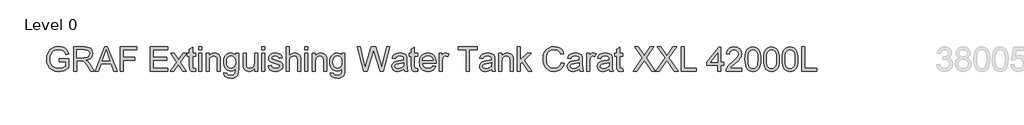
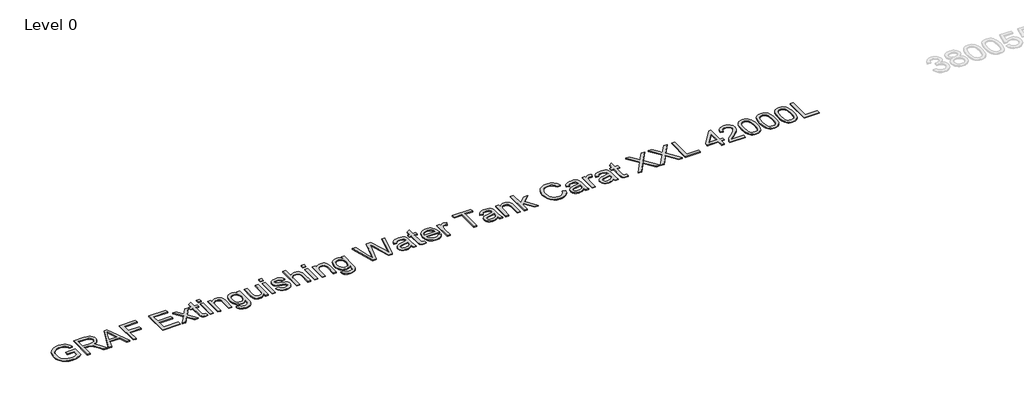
# One storey, part 9 of 37: 1 proxy.
"""IFC4 building model written with IfcOpenShell, lengths in millimetres."""

from ifc_helpers import new_model, si_unit, origin, origin_with_axes, place, context, project, spatial, polyline, outline, extrude, element, save

model = new_model("IFC4")

# Units and contexts
model_context = context("Model", 3, world=origin())
ifc_project = project(units=[si_unit("LENGTHUNIT", "METRE", prefix="MILLI")], contexts=[model_context])

# Site, building, storey
site = spatial("IfcSite", under=ifc_project)
building = spatial("IfcBuilding", under=site)
storey = spatial("IfcBuildingStorey", under=building, Name="Level 0", Elevation=0.0)

# Proxy
placement = place(None, origin())
element("IfcBuildingElementProxy", 1, Name="300mm Arial", ObjectType="300mm Arial", at=placement, inside=storey, context=model_context, shape_type="SweptSolid", body=[
    extrude(outline(polyline([(-17240.9940387, -21583.2545597), (-17240.9940387, -21545.5834434), (-17118.5629107, -21545.5834434), (-17118.5629107, -21658.2289103), (-17148.3153671, -21678.9222726), (-17179.0059225, -21693.7663111), (-17210.5610007, -21702.7058436), (-17242.9070251, -21705.6856877), (-17285.1674693, -21700.949207), (-17323.3628175, -21686.739765), (-17355.0926395, -21663.5540022), (-17377.9565055, -21631.8885595), (-17391.7796715, -21593.9047435), (-17396.3873935, -21551.7638609), (-17391.7980656, -21509.3194757), (-17378.0300819, -21469.8365406), (-17355.6536596, -21436.717964), (-17325.2390156, -21413.3666543), (-17288.1932987, -21399.5158972), (-17245.9236575, -21394.8989782), (-17214.8928112, -21397.5753197), (-17186.9889618, -21405.6043443), (-17163.4904994, -21418.4066377), (-17145.6758138, -21435.4027859), (-17132.4964413, -21457.4113262), (-17122.9039183, -21485.2507962), (-17157.6319786, -21495.0364573), (-17165.3850917, -21475.1800266), (-17174.8120678, -21460.1980323), (-17187.2832674, -21448.9040551), (-17204.169051, -21440.1116754), (-17224.3013932, -21434.4554897), (-17246.5122687, -21432.5700945), (-17272.5123287, -21434.6026425), (-17294.7415982, -21440.7002866), (-17313.1173039, -21450.0996716), (-17327.5566722, -21462.0374423), (-17346.9440533, -21491.0633317), (-17355.7732212, -21519.50061), (-17358.7162772, -21550.2187566), (-17355.175413, -21586.2436009), (-17344.5528204, -21615.8856927), (-17327.1703961, -21638.9334997), (-17303.3500369, -21655.1754898), (-17275.4737787, -21664.804801), (-17245.9236575, -21668.0145714), (-17219.831627, -21665.5957473), (-17194.3833899, -21658.3392749), (-17172.2828791, -21648.3420817), (-17156.234027, -21637.701095), (-17156.234027, -21583.2545597), (-17240.9940387, -21583.2545597)])), origin_with_axes(), (0.0, 0.0, 1.0), 10.0),
    extrude(outline(polyline([(-17057.3473467, -21700.9767982), (-17057.3473467, -21399.6078677), (-16927.4850024, -21399.6078677), (-16892.5821982, -21401.6404158), (-16867.1891434, -21407.7380598), (-16848.6294968, -21418.9952489), (-16834.2269167, -21436.5064318), (-16824.9838815, -21458.2206666), (-16821.9028698, -21482.087011), (-16827.0072325, -21511.7750881), (-16842.3203206, -21536.3863935), (-16853.9200997, -21546.4157764), (-16868.3019865, -21554.4310054), (-16905.4120827, -21564.4190016), (-16884.0013506, -21580.532233), (-16853.467145, -21619.3069952), (-16803.2144645, -21700.9767982), (-16846.9924219, -21700.9767982), (-16886.2086426, -21638.5104354), (-16914.5355562, -21597.1604991), (-16934.4379722, -21577.6259652), (-16952.3538253, -21570.4522663), (-16974.2060158, -21569.1278911), (-17019.6762304, -21569.1278911), (-17019.6762304, -21700.9767982), (-17057.3473467, -21700.9767982)]), holes=[polyline([(-17019.6762304, -21531.4567748), (-16935.3576771, -21531.4567748), (-16911.1418448, -21530.1232026), (-16892.3522719, -21526.1224859), (-16878.2072092, -21519.1879103), (-16867.9249074, -21509.0527613), (-16861.6617165, -21496.7930938), (-16859.5739861, -21483.4849626), (-16863.5563087, -21465.109257), (-16875.5032765, -21450.3020067), (-16896.058683, -21440.5347397), (-16925.8663217, -21437.278984), (-17019.6762304, -21437.278984), (-17019.6762304, -21531.4567748)])]), origin_with_axes(), (0.0, 0.0, 1.0), 10.0),
    extrude(outline(polyline([(-16791.0743586, -21700.9767982), (-16670.7769462, -21399.6078677), (-16638.6976362, -21399.6078677), (-16518.4002238, -21700.9767982), (-16558.2050557, -21700.9767982), (-16592.7123868, -21606.7990074), (-16716.835772, -21606.7990074), (-16751.2695268, -21700.9767982), (-16791.0743586, -21700.9767982)]), holes=[polyline([(-16703.003409, -21569.1278911), (-16606.4711735, -21569.1278911), (-16633.6208647, -21495.0364573), (-16654.7372912, -21437.278984), (-16673.499273, -21488.5617342), (-16703.003409, -21569.1278911)])]), origin_with_axes(), (0.0, 0.0, 1.0), 10.0),
    extrude(outline(polyline([(-16478.1539335, -21700.9767982), (-16478.1539335, -21399.6078677), (-16275.6716834, -21399.6078677), (-16275.6716834, -21437.278984), (-16440.4828172, -21437.278984), (-16440.4828172, -21526.7478853), (-16299.2161311, -21526.7478853), (-16299.2161311, -21564.4190016), (-16440.4828172, -21564.4190016), (-16440.4828172, -21700.9767982), (-16478.1539335, -21700.9767982)])), origin_with_axes(), (0.0, 0.0, 1.0), 10.0),
    extrude(outline(polyline([(-16106.15166, -21700.9767982), (-16106.15166, -21399.6078677), (-15889.5427413, -21399.6078677), (-15889.5427413, -21437.278984), (-16068.4805437, -21437.278984), (-16068.4805437, -21526.7478853), (-15898.9605203, -21526.7478853), (-15898.9605203, -21564.4190016), (-16068.4805437, -21564.4190016), (-16068.4805437, -21663.3056819), (-15884.8338517, -21663.3056819), (-15884.8338517, -21700.9767982), (-16106.15166, -21700.9767982)])), origin_with_axes(), (0.0, 0.0, 1.0), 10.0),
    extrude(outline(polyline([(-15856.5805145, -21700.9767982), (-15776.0879339, -21589.7292828), (-15851.8716249, -21479.6589899), (-15806.5485631, -21479.6589899), (-15769.9810928, -21532.6339972), (-15752.9113682, -21557.6499729), (-15738.122512, -21537.1957339), (-15696.4782702, -21479.6589899), (-15651.1552084, -21479.6589899), (-15730.7648721, -21589.7292828), (-15654.0982643, -21700.9767982), (-15699.4213261, -21700.9767982), (-15745.5537283, -21634.0958515), (-15754.0150142, -21621.8821692), (-15811.2574527, -21700.9767982), (-15856.5805145, -21700.9767982)])), origin_with_axes(), (0.0, 0.0, 1.0), 10.0),
    extrude(outline(polyline([(-15541.0849154, -21669.5596758), (-15536.3760259, -21702.0804442), (-15564.5557867, -21705.6856877), (-15582.6371868, -21704.1221892), (-15596.1200619, -21699.4316938), (-15605.6482056, -21692.2028126), (-15611.8654113, -21683.0241568), (-15615.2867139, -21667.2604133), (-15616.427148, -21640.276269), (-15616.427148, -21517.3301062), (-15644.6804853, -21517.3301062), (-15644.6804853, -21479.6589899), (-15616.427148, -21479.6589899), (-15616.427148, -21425.8746422), (-15578.7560317, -21403.7281461), (-15578.7560317, -21479.6589899), (-15541.0849154, -21479.6589899), (-15541.0849154, -21517.3301062), (-15578.7560317, -21517.3301062), (-15578.7560317, -21639.172623), (-15576.769469, -21658.5967923), (-15570.331534, -21665.4761856), (-15557.4924524, -21668.0145714), (-15541.0849154, -21669.5596758)])), origin_with_axes(), (0.0, 0.0, 1.0), 10.0),
    extrude(outline(polyline([(-15503.4137991, -21437.278984), (-15503.4137991, -21399.6078677), (-15465.7426828, -21399.6078677), (-15465.7426828, -21437.278984), (-15503.4137991, -21437.278984)])), origin_with_axes(), (0.0, 0.0, 1.0), 10.0),
    extrude(outline(polyline([(-15503.4137991, -21700.9767982), (-15503.4137991, -21479.6589899), (-15465.7426828, -21479.6589899), (-15465.7426828, -21700.9767982), (-15503.4137991, -21700.9767982)])), origin_with_axes(), (0.0, 0.0, 1.0), 10.0),
    extrude(outline(polyline([(-15409.2360084, -21700.9767982), (-15409.2360084, -21479.6589899), (-15371.564892, -21479.6589899), (-15371.564892, -21510.5610775), (-15358.4774901, -21494.981275), (-15342.7597318, -21483.8528446), (-15324.4116173, -21477.1757864), (-15303.4331465, -21474.9501003), (-15284.8643028, -21476.7435251), (-15267.8589576, -21482.1237992), (-15253.6771067, -21490.4195382), (-15243.5787459, -21500.9593574), (-15232.2847687, -21528.6608716), (-15230.2982059, -21565.0811892), (-15230.2982059, -21700.9767982), (-15267.9693222, -21700.9767982), (-15267.9693222, -21570.1579607), (-15272.3103297, -21536.8278519), (-15278.3160033, -21526.9042351), (-15287.6510089, -21519.2063044), (-15299.6163708, -21514.2674886), (-15313.5131132, -21512.6212166), (-15335.5768359, -21516.3184307), (-15354.3848029, -21527.4100729), (-15361.9010919, -21536.4645685), (-15367.2698698, -21548.8391991), (-15371.564892, -21583.5488653), (-15371.564892, -21700.9767982), (-15409.2360084, -21700.9767982)])), origin_with_axes(), (0.0, 0.0, 1.0), 10.0),
    extrude(outline(polyline([(-15187.9182001, -21719.8123563), (-15150.2470837, -21724.5212459), (-15146.0900172, -21736.2934697), (-15138.0334015, -21744.3868736), (-15122.1960816, -21750.6776557), (-15101.4659312, -21752.7745831), (-15079.3562233, -21750.4017442), (-15062.9118981, -21743.2832276), (-15051.5075562, -21731.8788858), (-15044.5177983, -21716.6485712), (-15041.9426244, -21672.7234609), (-15054.4782034, -21685.084296), (-15068.4669162, -21693.9134639), (-15083.908763, -21699.2109646), (-15100.8037436, -21700.9767982), (-15121.4580184, -21698.9212575), (-15139.6428852, -21692.7546356), (-15155.3583442, -21682.4769323), (-15168.6043953, -21668.0881478), (-15179.1143241, -21650.8252852), (-15186.621416, -21631.9253477), (-15191.1256712, -21611.3883353), (-15192.6270896, -21589.214248), (-15189.932354, -21558.7996041), (-15181.8481471, -21530.8313754), (-15168.6595776, -21507.1305779), (-15150.6517539, -21489.5182274), (-15128.4408785, -21478.5921321), (-15102.6431536, -21474.9501003), (-15085.0262045, -21477.0102395), (-15069.0371333, -21483.190657), (-15054.6759399, -21493.4913529), (-15041.9426244, -21507.9123271), (-15041.9426244, -21479.6589899), (-15004.2715081, -21479.6589899), (-15004.2715081, -21670.7368982), (-15006.846682, -21714.8551464), (-15014.5722039, -21743.908627), (-15027.8803351, -21763.1764465), (-15047.2033369, -21777.9377116), (-15072.118145, -21787.3187024), (-15102.2016952, -21790.4456994), (-15137.2516523, -21786.0403125), (-15164.851999, -21772.8241518), (-15175.2469646, -21762.9028343), (-15182.55632, -21750.7604292), (-15186.7800651, -21736.3969365), (-15187.9182001, -21719.8123563)]), holes=[polyline([(-15154.9559733, -21586.6390741), (-15150.9368625, -21621.1923905), (-15138.8795301, -21644.9483703), (-15120.7521448, -21658.716354), (-15098.5228752, -21663.3056819), (-15076.4591526, -21658.7439451), (-15058.2397968, -21645.0587349), (-15046.0169175, -21621.6062577), (-15041.9426244, -21587.7427201), (-15046.1364791, -21555.0839959), (-15058.7180433, -21531.5671394), (-15077.2041136, -21517.3576973), (-15099.1114864, -21512.6212166), (-15120.6233861, -21517.2841209), (-15138.6588009, -21531.2728338), (-15150.8816802, -21554.4402024), (-15154.9559733, -21586.6390741)])]), origin_with_axes(), (0.0, 0.0, 1.0), 10.0),
    extrude(outline(polyline([(-14806.4981475, -21700.9767982), (-14806.4981475, -21662.9377999), (-14820.1281754, -21681.6400008), (-14836.0022835, -21694.9987158), (-14854.1204717, -21703.0139447), (-14874.4827402, -21705.6856877), (-14892.8308547, -21703.8094895), (-14909.9097763, -21698.180895), (-14924.23878, -21689.7196091), (-14934.3371408, -21679.3453369), (-14945.5575416, -21651.6070344), (-14947.7648336, -21616.5846685), (-14947.7648336, -21479.6589899), (-14910.0937173, -21479.6589899), (-14910.0937173, -21598.8527563), (-14907.8128489, -21637.2596366), (-14902.3222101, -21650.0711271), (-14892.9136281, -21659.8108029), (-14880.2125022, -21665.9636293), (-14864.8442319, -21668.0145714), (-14848.5930448, -21665.917644), (-14833.3903213, -21659.6268619), (-14820.8547423, -21649.7216392), (-14812.6049886, -21636.78139), (-14808.0248577, -21619.0586749), (-14806.4981475, -21594.8060544), (-14806.4981475, -21479.6589899), (-14768.8270311, -21479.6589899), (-14768.8270311, -21700.9767982), (-14806.4981475, -21700.9767982)])), origin_with_axes(), (0.0, 0.0, 1.0), 10.0),
    extrude(outline(polyline([(-14717.0292462, -21437.278984), (-14717.0292462, -21399.6078677), (-14679.3581299, -21399.6078677), (-14679.3581299, -21437.278984), (-14717.0292462, -21437.278984)])), origin_with_axes(), (0.0, 0.0, 1.0), 10.0),
    extrude(outline(polyline([(-14717.0292462, -21700.9767982), (-14717.0292462, -21479.6589899), (-14679.3581299, -21479.6589899), (-14679.3581299, -21700.9767982), (-14717.0292462, -21700.9767982)])), origin_with_axes(), (0.0, 0.0, 1.0), 10.0),
    extrude(outline(polyline([(-14636.9781241, -21635.0523446), (-14599.3070078, -21630.3434551), (-14593.3657135, -21646.4566865), (-14581.8694012, -21658.3024867), (-14564.7444943, -21665.5865502), (-14541.9174165, -21668.0145714), (-14519.3662502, -21665.7888853), (-14503.5105362, -21659.1118271), (-14494.1295453, -21649.4365307), (-14491.0025484, -21638.2161298), (-14494.1479394, -21628.6144097), (-14503.5841126, -21621.293558), (-14542.3588749, -21610.5514038), (-14599.0862786, -21592.1205158), (-14613.4428734, -21582.8590866), (-14623.8447368, -21570.5994191), (-14630.1631101, -21556.1232626), (-14632.2692345, -21540.2123663), (-14630.5769774, -21525.6166481), (-14625.5002058, -21512.1429701), (-14617.4987724, -21500.324761), (-14607.0325297, -21490.6954497), (-14583.0834118, -21479.5486253), (-14550.673008, -21474.9501003), (-14526.153673, -21476.7987074), (-14504.8349114, -21482.3445284), (-14487.6916104, -21491.0449376), (-14475.6986574, -21502.357309), (-14467.7524063, -21517.118574), (-14462.7492112, -21536.1656643), (-14500.4203275, -21540.8745539), (-14505.1752023, -21529.0195566), (-14514.5837843, -21520.0892211), (-14528.738044, -21514.4882178), (-14547.729952, -21512.6212166), (-14569.3614134, -21514.4054443), (-14583.7823876, -21519.7581274), (-14591.8941856, -21527.4836493), (-14594.5981182, -21536.3863935), (-14590.1099579, -21547.349277), (-14576.0568657, -21555.6634101), (-14543.6096737, -21563.6832376), (-14488.3170098, -21581.4151497), (-14473.7120946, -21589.8948297), (-14462.6388466, -21601.5015067), (-14455.6582857, -21616.2719688), (-14453.3314321, -21634.2430043), (-14456.0629559, -21652.821045), (-14464.2575273, -21670.2954398), (-14477.6024467, -21685.2958281), (-14495.7850143, -21696.4518496), (-14517.7475694, -21703.3772282), (-14542.4324513, -21705.6856877), (-14580.4162673, -21701.2343156), (-14608.1361757, -21687.8801991), (-14626.64064, -21665.7704912), (-14636.9781241, -21635.0523446)])), origin_with_axes(), (0.0, 0.0, 1.0), 10.0),
    extrude(outline(polyline([(-14410.9514262, -21700.9767982), (-14410.9514262, -21399.6078677), (-14373.2803099, -21399.6078677), (-14373.2803099, -21510.4139247), (-14359.4433484, -21494.8985015), (-14343.9049326, -21483.8160564), (-14326.6650626, -21477.1665894), (-14307.7237384, -21474.9501003), (-14284.970237, -21477.3689245), (-14265.4173089, -21484.6253968), (-14250.0214474, -21496.1493003), (-14239.7391457, -21511.3704179), (-14233.9450043, -21532.2845093), (-14232.0136238, -21560.8873344), (-14232.0136238, -21700.9767982), (-14269.6847401, -21700.9767982), (-14269.6847401, -21564.7868836), (-14272.6829784, -21541.2056477), (-14281.6776931, -21525.0556281), (-14296.1722437, -21515.7298195), (-14315.6699895, -21512.6212166), (-14331.5900828, -21514.718144), (-14346.5352889, -21521.0089261), (-14358.914518, -21530.8865577), (-14367.1366806, -21543.7440334), (-14371.7444026, -21560.8321521), (-14373.2803099, -21583.4017125), (-14373.2803099, -21700.9767982), (-14410.9514262, -21700.9767982)])), origin_with_axes(), (0.0, 0.0, 1.0), 10.0),
    extrude(outline(polyline([(-14180.2158389, -21437.278984), (-14180.2158389, -21399.6078677), (-14142.5447226, -21399.6078677), (-14142.5447226, -21437.278984), (-14180.2158389, -21437.278984)])), origin_with_axes(), (0.0, 0.0, 1.0), 10.0),
    extrude(outline(polyline([(-14180.2158389, -21700.9767982), (-14180.2158389, -21479.6589899), (-14142.5447226, -21479.6589899), (-14142.5447226, -21700.9767982), (-14180.2158389, -21700.9767982)])), origin_with_axes(), (0.0, 0.0, 1.0), 10.0),
    extrude(outline(polyline([(-14086.0380481, -21700.9767982), (-14086.0380481, -21479.6589899), (-14048.3669318, -21479.6589899), (-14048.3669318, -21510.5610775), (-14035.2795298, -21494.981275), (-14019.5617716, -21483.8528446), (-14001.2136571, -21477.1757864), (-13980.2351863, -21474.9501003), (-13961.6663426, -21476.7435251), (-13944.6609974, -21482.1237992), (-13930.4791464, -21490.4195382), (-13920.3807857, -21500.9593574), (-13909.0868084, -21528.6608716), (-13907.1002456, -21565.0811892), (-13907.1002456, -21700.9767982), (-13944.771362, -21700.9767982), (-13944.771362, -21570.1579607), (-13949.1123695, -21536.8278519), (-13955.1180431, -21526.9042351), (-13964.4530487, -21519.2063044), (-13976.4184106, -21514.2674886), (-13990.315153, -21512.6212166), (-14012.3788756, -21516.3184307), (-14031.1868426, -21527.4100729), (-14038.7031316, -21536.4645685), (-14044.0719095, -21548.8391991), (-14048.3669318, -21583.5488653), (-14048.3669318, -21700.9767982), (-14086.0380481, -21700.9767982)])), origin_with_axes(), (0.0, 0.0, 1.0), 10.0),
    extrude(outline(polyline([(-13864.7202398, -21719.8123563), (-13827.0491235, -21724.5212459), (-13822.8920569, -21736.2934697), (-13814.8354413, -21744.3868736), (-13798.9981214, -21750.6776557), (-13778.2679709, -21752.7745831), (-13756.158263, -21750.4017442), (-13739.7139378, -21743.2832276), (-13728.309596, -21731.8788858), (-13721.3198381, -21716.6485712), (-13718.7446641, -21672.7234609), (-13731.2802431, -21685.084296), (-13745.268956, -21693.9134639), (-13760.7108027, -21699.2109646), (-13777.6057833, -21700.9767982), (-13798.2600581, -21698.9212575), (-13816.444925, -21692.7546356), (-13832.160384, -21682.4769323), (-13845.4064351, -21668.0881478), (-13855.9163638, -21650.8252852), (-13863.4234558, -21631.9253477), (-13867.9277109, -21611.3883353), (-13869.4291293, -21589.214248), (-13866.7343937, -21558.7996041), (-13858.6501869, -21530.8313754), (-13845.4616174, -21507.1305779), (-13827.4537937, -21489.5182274), (-13805.2429182, -21478.5921321), (-13779.4451933, -21474.9501003), (-13761.8282443, -21477.0102395), (-13745.8391731, -21483.190657), (-13731.4779797, -21493.4913529), (-13718.7446641, -21507.9123271), (-13718.7446641, -21479.6589899), (-13681.0735478, -21479.6589899), (-13681.0735478, -21670.7368982), (-13683.6487218, -21714.8551464), (-13691.3742437, -21743.908627), (-13704.6823748, -21763.1764465), (-13724.0053766, -21777.9377116), (-13748.9201848, -21787.3187024), (-13779.0037349, -21790.4456994), (-13814.053692, -21786.0403125), (-13841.6540387, -21772.8241518), (-13852.0490043, -21762.9028343), (-13859.3583597, -21750.7604292), (-13863.5821049, -21736.3969365), (-13864.7202398, -21719.8123563)]), holes=[polyline([(-13831.758013, -21586.6390741), (-13827.7389022, -21621.1923905), (-13815.6815698, -21644.9483703), (-13797.5541845, -21658.716354), (-13775.324915, -21663.3056819), (-13753.2611923, -21658.7439451), (-13735.0418365, -21645.0587349), (-13722.8189572, -21621.6062577), (-13718.7446641, -21587.7427201), (-13722.9385189, -21555.0839959), (-13735.5200831, -21531.5671394), (-13754.0061534, -21517.3576973), (-13775.9135262, -21512.6212166), (-13797.4254258, -21517.2841209), (-13815.4608406, -21531.2728338), (-13827.6837199, -21554.4402024), (-13831.758013, -21586.6390741)])]), origin_with_axes(), (0.0, 0.0, 1.0), 10.0),
    extrude(outline(polyline([(-13448.2042449, -21700.9767982), (-13530.3890826, -21399.6078677), (-13491.5407439, -21399.6078677), (-13443.8632373, -21597.6755339), (-13429.1479575, -21658.8175215), (-13413.4026081, -21604.7388682), (-13353.6585721, -21399.6078677), (-13297.6669324, -21399.6078677), (-13254.256857, -21548.3057702), (-13235.6604221, -21603.4880695), (-13221.9568178, -21658.8175215), (-13207.6829964, -21599.4413675), (-13159.5640314, -21399.6078677), (-13120.7156928, -21399.6078677), (-13202.9741069, -21700.9767982), (-13243.2203971, -21700.9767982), (-13315.472421, -21468.4753772), (-13325.5523877, -21436.0281853), (-13336.8831531, -21475.0972531), (-13402.7340303, -21700.9767982), (-13448.2042449, -21700.9767982)])), origin_with_axes(), (0.0, 0.0, 1.0), 10.0),
    extrude(outline(polyline([(-12946.4867798, -21672.7234609), (-12964.4854065, -21688.1561106), (-12983.017462, -21698.2544714), (-13002.5060107, -21703.8278836), (-13023.3741168, -21705.6856877), (-13054.8556186, -21701.2159215), (-13078.0781695, -21687.8066228), (-13092.3979762, -21667.4443543), (-13097.1712451, -21642.1156789), (-13095.3686233, -21626.4990883), (-13089.960758, -21612.3172373), (-13081.6190337, -21600.1771315), (-13071.0148352, -21590.685776), (-13044.6376962, -21578.324941), (-13012.0433514, -21572.6595583), (-12973.5261065, -21566.6998699), (-12946.707509, -21559.710112), (-12946.4867798, -21551.3224025), (-12949.0803479, -21534.5101954), (-12956.8610521, -21523.5105237), (-12974.2618705, -21515.3435434), (-12998.505294, -21512.6212166), (-13020.9460957, -21514.4330355), (-13036.6178687, -21519.868492), (-13047.3048406, -21529.9208675), (-13054.7912392, -21545.5834434), (-13092.4623555, -21540.8745539), (-13085.9232531, -21520.2731621), (-13076.1651831, -21504.0863544), (-13062.2776378, -21491.7071252), (-13043.3501092, -21482.5284694), (-13020.2011346, -21476.8446926), (-12993.6492516, -21474.9501003), (-12968.1826205, -21476.6239634), (-12947.995096, -21481.6455527), (-12932.7739785, -21489.1963306), (-12922.2065682, -21498.4577598), (-12915.1984162, -21509.9080869), (-12910.6550735, -21524.0255585), (-12908.8156635, -21556.9877853), (-12908.8156635, -21603.8559515), (-12906.9026772, -21669.3021584), (-12899.3978845, -21700.9767982), (-12937.0690008, -21700.9767982), (-12946.4867798, -21672.7234609)]), holes=[polyline([(-12946.4867798, -21597.3812283), (-13007.2608854, -21608.932723), (-13039.6712892, -21615.0395641), (-13054.3497808, -21624.972378), (-13059.5001288, -21639.4669286), (-13056.6950285, -21650.6689353), (-13048.2797279, -21659.8475911), (-13034.4381678, -21665.9728263), (-13015.3542893, -21668.0145714), (-12995.1207796, -21665.7612942), (-12977.2417146, -21659.0014625), (-12962.747164, -21649.0410575), (-12952.6671974, -21637.1860602), (-12948.1974311, -21624.972378), (-12946.707509, -21608.0498062), (-12946.4867798, -21597.3812283)])]), origin_with_axes(), (0.0, 0.0, 1.0), 10.0),
    extrude(outline(polyline([(-12776.9667565, -21669.5596758), (-12772.2578669, -21702.0804442), (-12800.4376278, -21705.6856877), (-12818.5190278, -21704.1221892), (-12832.0019029, -21699.4316938), (-12841.5300466, -21692.2028126), (-12847.7472523, -21683.0241568), (-12851.1685549, -21667.2604133), (-12852.3089891, -21640.276269), (-12852.3089891, -21517.3301062), (-12880.5623263, -21517.3301062), (-12880.5623263, -21479.6589899), (-12852.3089891, -21479.6589899), (-12852.3089891, -21425.8746422), (-12814.6378728, -21403.7281461), (-12814.6378728, -21479.6589899), (-12776.9667565, -21479.6589899), (-12776.9667565, -21517.3301062), (-12814.6378728, -21517.3301062), (-12814.6378728, -21639.172623), (-12812.65131, -21658.5967923), (-12806.2133751, -21665.4761856), (-12793.3742934, -21668.0145714), (-12776.9667565, -21669.5596758)])), origin_with_axes(), (0.0, 0.0, 1.0), 10.0),
    extrude(outline(polyline([(-12584.3437438, -21635.0523446), (-12547.4083915, -21639.7612342), (-12560.7165226, -21667.5915071), (-12581.9525108, -21688.3952339), (-12610.6381094, -21701.3630743), (-12646.2950718, -21705.6856877), (-12669.669374, -21703.8209859), (-12690.4960935, -21698.2268803), (-12708.7752301, -21688.9033709), (-12724.506784, -21675.8504579), (-12737.1573261, -21659.4314246), (-12746.1934276, -21640.0095545), (-12751.6150885, -21617.5848477), (-12753.4223088, -21592.157304), (-12751.5966944, -21565.8675369), (-12746.1198512, -21542.6955698), (-12736.9917792, -21522.6414025), (-12724.2124784, -21505.7050351), (-12708.5223113, -21492.2497512), (-12690.6616404, -21482.638834), (-12670.6304658, -21476.8722838), (-12648.4287873, -21474.9501003), (-12626.9421796, -21476.8676852), (-12607.5111124, -21482.6204399), (-12590.1355859, -21492.2083644), (-12574.8156001, -21505.6314587), (-12562.3099115, -21522.5310379), (-12553.3772768, -21542.548417), (-12548.017696, -21565.6835959), (-12546.2311691, -21591.9365748), (-12546.4518983, -21602.0901179), (-12715.7511925, -21602.0901179), (-12709.2304841, -21630.2882728), (-12694.0829429, -21651.0184232), (-12672.2215554, -21663.7655344), (-12645.5593078, -21668.0145714), (-12625.509739, -21666.0464027), (-12608.6239555, -21660.1418967), (-12594.901957, -21649.9331713), (-12584.3437438, -21635.0523446)]), holes=[polyline([(-12715.7511925, -21564.4190016), (-12583.9022854, -21564.4190016), (-12588.997451, -21544.5165856), (-12598.9854472, -21530.2795524), (-12620.9480023, -21517.0358006), (-12648.5759401, -21512.6212166), (-12673.9689949, -21516.1436868), (-12694.9658597, -21526.7110971), (-12709.5615779, -21543.1830134), (-12715.7511925, -21564.4190016)])]), origin_with_axes(), (0.0, 0.0, 1.0), 10.0),
    extrude(outline(polyline([(-12508.5600528, -21700.9767982), (-12508.5600528, -21479.6589899), (-12475.597826, -21479.6589899), (-12475.597826, -21512.4004875), (-12463.420932, -21493.4177765), (-12452.2005311, -21482.2341638), (-12440.9433421, -21476.7711162), (-12428.6560834, -21474.9501003), (-12409.8941017, -21477.8563681), (-12390.8378143, -21486.5751714), (-12403.4193786, -21520.3467385), (-12416.6631304, -21514.5525971), (-12429.9068822, -21512.6212166), (-12441.1548742, -21514.4790207), (-12451.2072497, -21520.052433), (-12459.3282448, -21528.918389), (-12464.7820954, -21540.6538247), (-12469.3622262, -21561.6966748), (-12470.8889365, -21584.6525113), (-12470.8889365, -21700.9767982), (-12508.5600528, -21700.9767982)])), origin_with_axes(), (0.0, 0.0, 1.0), 10.0),
    extrude(outline(polyline([(-12169.520006, -21700.9767982), (-12169.520006, -21437.278984), (-12268.4066863, -21437.278984), (-12268.4066863, -21399.6078677), (-12032.9622094, -21399.6078677), (-12032.9622094, -21437.278984), (-12131.8488897, -21437.278984), (-12131.8488897, -21700.9767982), (-12169.520006, -21700.9767982)])), origin_with_axes(), (0.0, 0.0, 1.0), 10.0),
    extrude(outline(polyline([(-11854.024407, -21672.7234609), (-11872.0230336, -21688.1561106), (-11890.5550891, -21698.2544714), (-11910.0436378, -21703.8278836), (-11930.911744, -21705.6856877), (-11962.3932457, -21701.2159215), (-11985.6157966, -21687.8066228), (-11999.9356033, -21667.4443543), (-12004.7088722, -21642.1156789), (-12002.9062504, -21626.4990883), (-11997.4983851, -21612.3172373), (-11989.1566608, -21600.1771315), (-11978.5524623, -21590.685776), (-11952.1753233, -21578.324941), (-11919.5809785, -21572.6595583), (-11881.0637336, -21566.6998699), (-11854.2451362, -21559.710112), (-11854.024407, -21551.3224025), (-11856.617975, -21534.5101954), (-11864.3986792, -21523.5105237), (-11881.7994976, -21515.3435434), (-11906.0429211, -21512.6212166), (-11928.4837228, -21514.4330355), (-11944.1554958, -21519.868492), (-11954.8424677, -21529.9208675), (-11962.3288663, -21545.5834434), (-11999.9999826, -21540.8745539), (-11993.4608802, -21520.2731621), (-11983.7028103, -21504.0863544), (-11969.8152649, -21491.7071252), (-11950.8877363, -21482.5284694), (-11927.7387617, -21476.8446926), (-11901.1868787, -21474.9501003), (-11875.7202476, -21476.6239634), (-11855.5327231, -21481.6455527), (-11840.3116056, -21489.1963306), (-11829.7441953, -21498.4577598), (-11822.7360433, -21509.9080869), (-11818.1927006, -21524.0255585), (-11816.3532907, -21556.9877853), (-11816.3532907, -21603.8559515), (-11814.4403043, -21669.3021584), (-11806.9355116, -21700.9767982), (-11844.6066279, -21700.9767982), (-11854.024407, -21672.7234609)]), holes=[polyline([(-11854.024407, -21597.3812283), (-11914.7985126, -21608.932723), (-11947.2089163, -21615.0395641), (-11961.8874079, -21624.972378), (-11967.0377559, -21639.4669286), (-11964.2326557, -21650.6689353), (-11955.817355, -21659.8475911), (-11941.975795, -21665.9728263), (-11922.8919165, -21668.0145714), (-11902.6584067, -21665.7612942), (-11884.7793418, -21659.0014625), (-11870.2847911, -21649.0410575), (-11860.2048245, -21637.1860602), (-11855.7350582, -21624.972378), (-11854.2451362, -21608.0498062), (-11854.024407, -21597.3812283)])]), origin_with_axes(), (0.0, 0.0, 1.0), 10.0),
    extrude(outline(polyline([(-11764.5555057, -21700.9767982), (-11764.5555057, -21479.6589899), (-11726.8843894, -21479.6589899), (-11726.8843894, -21510.5610775), (-11713.7969875, -21494.981275), (-11698.0792292, -21483.8528446), (-11679.7311147, -21477.1757864), (-11658.7526439, -21474.9501003), (-11640.1838002, -21476.7435251), (-11623.178455, -21482.1237992), (-11608.9966041, -21490.4195382), (-11598.8982433, -21500.9593574), (-11587.6042661, -21528.6608716), (-11585.6177033, -21565.0811892), (-11585.6177033, -21700.9767982), (-11623.2888196, -21700.9767982), (-11623.2888196, -21570.1579607), (-11627.6298271, -21536.8278519), (-11633.6355007, -21526.9042351), (-11642.9705063, -21519.2063044), (-11654.9358682, -21514.2674886), (-11668.8326106, -21512.6212166), (-11690.8963333, -21516.3184307), (-11709.7043003, -21527.4100729), (-11717.2205893, -21536.4645685), (-11722.5893671, -21548.8391991), (-11726.8843894, -21583.5488653), (-11726.8843894, -21700.9767982), (-11764.5555057, -21700.9767982)])), origin_with_axes(), (0.0, 0.0, 1.0), 10.0),
    extrude(outline(polyline([(-11533.8199184, -21700.9767982), (-11533.8199184, -21399.6078677), (-11496.1488021, -21399.6078677), (-11496.1488021, -21561.549522), (-11411.683096, -21479.6589899), (-11359.5910054, -21479.6589899), (-11445.0867811, -21562.5795916), (-11354.8821159, -21700.9767982), (-11398.8808025, -21700.9767982), (-11472.0893196, -21588.7727896), (-11496.1488021, -21612.0965081), (-11496.1488021, -21700.9767982), (-11533.8199184, -21700.9767982)])), origin_with_axes(), (0.0, 0.0, 1.0), 10.0),
    extrude(outline(polyline([(-10987.5887319, -21593.8495612), (-10949.9176156, -21603.5616459), (-10957.3718245, -21626.9888312), (-10967.3000399, -21647.4591649), (-10979.7022617, -21664.9726472), (-10994.5784898, -21679.5292779), (-11011.5930321, -21690.9727072), (-11030.4101962, -21699.1465853), (-11051.029982, -21704.0509121), (-11073.4523896, -21705.6856877), (-11117.1475736, -21700.7376749), (-11151.8480428, -21685.8936364), (-11178.445911, -21661.668607), (-11197.8332922, -21628.5776215), (-11209.6698954, -21589.6741005), (-11213.6154298, -21548.0114646), (-11209.1548606, -21504.0679603), (-11195.773153, -21466.1209325), (-11174.1692828, -21435.3751947), (-11145.0422259, -21413.0355606), (-11110.4981065, -21399.4331238), (-11072.6430492, -21394.8989782), (-11031.3390982, -21400.766696), (-11013.370362, -21408.1013433), (-10997.190452, -21418.3698495), (-10983.0660826, -21431.3009016), (-10971.2639684, -21446.6231867), (-10954.6265052, -21484.4414558), (-10992.2976215, -21493.4177765), (-11005.3574323, -21465.9461885), (-11023.1997091, -21447.1014333), (-11046.045181, -21436.2029292), (-11074.1145772, -21432.5700945), (-11106.4697987, -21436.5984023), (-11133.0492728, -21448.6833259), (-11153.2184032, -21467.5556722), (-11166.3425934, -21491.9462485), (-11173.5438834, -21519.5190041), (-11175.9443135, -21547.9378882), (-11173.102425, -21582.7395249), (-11164.5767598, -21612.8322721), (-11150.045421, -21637.0664986), (-11129.1865119, -21654.292573), (-11104.1797332, -21664.5840718), (-11077.2047859, -21668.0145714), (-11045.7600724, -21663.3424701), (-11019.5576773, -21649.3261661), (-10999.774823, -21626.1128122), (-10987.5887319, -21593.8495612)])), origin_with_axes(), (0.0, 0.0, 1.0), 10.0),
    extrude(outline(polyline([(-10761.5620341, -21672.7234609), (-10779.5606607, -21688.1561106), (-10798.0927162, -21698.2544714), (-10817.5812649, -21703.8278836), (-10838.4493711, -21705.6856877), (-10869.9308728, -21701.2159215), (-10893.1534238, -21687.8066228), (-10907.4732304, -21667.4443543), (-10912.2464993, -21642.1156789), (-10910.4438775, -21626.4990883), (-10905.0360122, -21612.3172373), (-10896.694288, -21600.1771315), (-10886.0900895, -21590.685776), (-10859.7129504, -21578.324941), (-10827.1186056, -21572.6595583), (-10788.6013607, -21566.6998699), (-10761.7827633, -21559.710112), (-10761.5620341, -21551.3224025), (-10764.1556022, -21534.5101954), (-10771.9363064, -21523.5105237), (-10789.3371247, -21515.3435434), (-10813.5805482, -21512.6212166), (-10836.0213499, -21514.4330355), (-10851.6931229, -21519.868492), (-10862.3800949, -21529.9208675), (-10869.8664935, -21545.5834434), (-10907.5376098, -21540.8745539), (-10900.9985073, -21520.2731621), (-10891.2404374, -21504.0863544), (-10877.3528921, -21491.7071252), (-10858.4253634, -21482.5284694), (-10835.2763889, -21476.8446926), (-10808.7245059, -21474.9501003), (-10783.2578748, -21476.6239634), (-10763.0703503, -21481.6455527), (-10747.8492327, -21489.1963306), (-10737.2818224, -21498.4577598), (-10730.2736704, -21509.9080869), (-10725.7303278, -21524.0255585), (-10723.8909178, -21556.9877853), (-10723.8909178, -21603.8559515), (-10721.9779314, -21669.3021584), (-10714.4731387, -21700.9767982), (-10752.144255, -21700.9767982), (-10761.5620341, -21672.7234609)]), holes=[polyline([(-10761.5620341, -21597.3812283), (-10822.3361397, -21608.932723), (-10854.7465435, -21615.0395641), (-10869.4250351, -21624.972378), (-10874.575383, -21639.4669286), (-10871.7702828, -21650.6689353), (-10863.3549822, -21659.8475911), (-10849.5134221, -21665.9728263), (-10830.4295436, -21668.0145714), (-10810.1960338, -21665.7612942), (-10792.3169689, -21659.0014625), (-10777.8224183, -21649.0410575), (-10767.7424516, -21637.1860602), (-10763.2726854, -21624.972378), (-10761.7827633, -21608.0498062), (-10761.5620341, -21597.3812283)])]), origin_with_axes(), (0.0, 0.0, 1.0), 10.0),
    extrude(outline(polyline([(-10672.0931329, -21700.9767982), (-10672.0931329, -21479.6589899), (-10639.1309061, -21479.6589899), (-10639.1309061, -21512.4004875), (-10626.9540121, -21493.4177765), (-10615.7336112, -21482.2341638), (-10604.4764221, -21476.7711162), (-10592.1891635, -21474.9501003), (-10573.4271818, -21477.8563681), (-10554.3708944, -21486.5751714), (-10566.9524586, -21520.3467385), (-10580.1962105, -21514.5525971), (-10593.4399623, -21512.6212166), (-10604.6879543, -21514.4790207), (-10614.7403298, -21520.052433), (-10622.8613249, -21528.918389), (-10628.3151754, -21540.6538247), (-10632.8953063, -21561.6966748), (-10634.4220166, -21584.6525113), (-10634.4220166, -21700.9767982), (-10672.0931329, -21700.9767982)])), origin_with_axes(), (0.0, 0.0, 1.0), 10.0),
    extrude(outline(polyline([(-10389.5597606, -21672.7234609), (-10407.5583872, -21688.1561106), (-10426.0904427, -21698.2544714), (-10445.5789914, -21703.8278836), (-10466.4470976, -21705.6856877), (-10497.9285993, -21701.2159215), (-10521.1511502, -21687.8066228), (-10535.4709569, -21667.4443543), (-10540.2442258, -21642.1156789), (-10538.441604, -21626.4990883), (-10533.0337387, -21612.3172373), (-10524.6920144, -21600.1771315), (-10514.0878159, -21590.685776), (-10487.7106769, -21578.324941), (-10455.1163321, -21572.6595583), (-10416.5990872, -21566.6998699), (-10389.7804898, -21559.710112), (-10389.5597606, -21551.3224025), (-10392.1533286, -21534.5101954), (-10399.9340328, -21523.5105237), (-10417.3348512, -21515.3435434), (-10441.5782747, -21512.6212166), (-10464.0190764, -21514.4330355), (-10479.6908494, -21519.868492), (-10490.3778213, -21529.9208675), (-10497.8642199, -21545.5834434), (-10535.5353362, -21540.8745539), (-10528.9962338, -21520.2731621), (-10519.2381639, -21504.0863544), (-10505.3506185, -21491.7071252), (-10486.4230899, -21482.5284694), (-10463.2741153, -21476.8446926), (-10436.7222323, -21474.9501003), (-10411.2556012, -21476.6239634), (-10391.0680767, -21481.6455527), (-10375.8469592, -21489.1963306), (-10365.2795489, -21498.4577598), (-10358.2713969, -21509.9080869), (-10353.7280542, -21524.0255585), (-10351.8886443, -21556.9877853), (-10351.8886443, -21603.8559515), (-10349.9756579, -21669.3021584), (-10342.4708652, -21700.9767982), (-10380.1419815, -21700.9767982), (-10389.5597606, -21672.7234609)]), holes=[polyline([(-10389.5597606, -21597.3812283), (-10450.3338662, -21608.932723), (-10482.7442699, -21615.0395641), (-10497.4227615, -21624.972378), (-10502.5731095, -21639.4669286), (-10499.7680093, -21650.6689353), (-10491.3527086, -21659.8475911), (-10477.5111486, -21665.9728263), (-10458.4272701, -21668.0145714), (-10438.1937603, -21665.7612942), (-10420.3146954, -21659.0014625), (-10405.8201448, -21649.0410575), (-10395.7401781, -21637.1860602), (-10391.2704118, -21624.972378), (-10389.7804898, -21608.0498062), (-10389.5597606, -21597.3812283)])]), origin_with_axes(), (0.0, 0.0, 1.0), 10.0),
    extrude(outline(polyline([(-10220.0397372, -21669.5596758), (-10215.3308476, -21702.0804442), (-10243.5106085, -21705.6856877), (-10261.5920085, -21704.1221892), (-10275.0748837, -21699.4316938), (-10284.6030273, -21692.2028126), (-10290.8202331, -21683.0241568), (-10294.2415356, -21667.2604133), (-10295.3819698, -21640.276269), (-10295.3819698, -21517.3301062), (-10323.635307, -21517.3301062), (-10323.635307, -21479.6589899), (-10295.3819698, -21479.6589899), (-10295.3819698, -21425.8746422), (-10257.7108535, -21403.7281461), (-10257.7108535, -21479.6589899), (-10220.0397372, -21479.6589899), (-10220.0397372, -21517.3301062), (-10257.7108535, -21517.3301062), (-10257.7108535, -21639.172623), (-10255.7242907, -21658.5967923), (-10249.2863558, -21665.4761856), (-10236.4472742, -21668.0145714), (-10220.0397372, -21669.5596758)])), origin_with_axes(), (0.0, 0.0, 1.0), 10.0),
    extrude(outline(polyline([(-10092.8997197, -21700.9767982), (-9976.7225856, -21536.7542755), (-10074.0641615, -21399.6078677), (-10028.8882525, -21399.6078677), (-9974.0738352, -21476.7895103), (-9955.6061591, -21506.8822575), (-9933.9746977, -21476.2744755), (-9879.7488916, -21399.6078677), (-9833.910795, -21399.6078677), (-9931.252371, -21537.1957339), (-9815.0752369, -21700.9767982), (-9860.2511459, -21700.9767982), (-9937.6535177, -21591.789422), (-9953.7667491, -21569.1278911), (-9971.4986612, -21593.996714), (-10047.0616231, -21700.9767982), (-10092.8997197, -21700.9767982)])), origin_with_axes(), (0.0, 0.0, 1.0), 10.0),
    extrude(outline(polyline([(-9810.3663474, -21700.9767982), (-9694.1892133, -21536.7542755), (-9791.5307892, -21399.6078677), (-9746.3548802, -21399.6078677), (-9691.5404629, -21476.7895103), (-9673.0727868, -21506.8822575), (-9651.4413254, -21476.2744755), (-9597.2155194, -21399.6078677), (-9551.3774228, -21399.6078677), (-9648.7189987, -21537.1957339), (-9532.5418646, -21700.9767982), (-9577.7177736, -21700.9767982), (-9655.1201454, -21591.789422), (-9671.2333768, -21569.1278911), (-9688.9652889, -21593.996714), (-9764.5282508, -21700.9767982), (-9810.3663474, -21700.9767982)])), origin_with_axes(), (0.0, 0.0, 1.0), 10.0),
    extrude(outline(polyline([(-9494.8707483, -21700.9767982), (-9494.8707483, -21399.6078677), (-9457.199632, -21399.6078677), (-9457.199632, -21663.3056819), (-9306.5151668, -21663.3056819), (-9306.5151668, -21700.9767982), (-9494.8707483, -21700.9767982)])), origin_with_axes(), (0.0, 0.0, 1.0), 10.0),
    extrude(outline(polyline([(-9038.1084631, -21700.9767982), (-9038.1084631, -21630.3434551), (-9174.6662597, -21630.3434551), (-9174.6662597, -21592.6723388), (-9028.690684, -21404.3167573), (-9000.4373468, -21404.3167573), (-9000.4373468, -21592.6723388), (-8962.7662305, -21592.6723388), (-8962.7662305, -21630.3434551), (-9000.4373468, -21630.3434551), (-9000.4373468, -21700.9767982), (-9038.1084631, -21700.9767982)]), holes=[polyline([(-9038.1084631, -21592.6723388), (-9038.1084631, -21476.2744755), (-9128.3131283, -21592.6723388), (-9038.1084631, -21592.6723388)])]), origin_with_axes(), (0.0, 0.0, 1.0), 10.0),
    extrude(outline(polyline([(-8736.7395326, -21663.3056819), (-8736.7395326, -21700.9767982), (-8934.5128932, -21700.9767982), (-8930.4661913, -21675.0043293), (-8921.1771709, -21654.7064402), (-8907.5839312, -21635.0155564), (-8887.9206386, -21614.4049677), (-8860.4214594, -21591.3479636), (-8819.7704989, -21555.2403458), (-8795.3799227, -21528.5872952), (-8783.1846345, -21506.9558339), (-8779.1195385, -21485.9129838), (-8782.9547083, -21467.0498345), (-8794.4602177, -21451.3688645), (-8812.1461446, -21440.8014541), (-8834.522567, -21437.278984), (-8858.0210294, -21440.7186807), (-8876.2771734, -21451.0377707), (-8888.0585943, -21467.4269135), (-8892.1328874, -21489.076769), (-8929.8040037, -21484.3678794), (-8920.6713332, -21447.9291678), (-8912.1249746, -21433.3932305), (-8900.9252671, -21421.3129054), (-8887.3297281, -21411.8169514), (-8871.595875, -21405.0341272), (-8833.7132266, -21399.6078677), (-8813.5234028, -21401.1161839), (-8795.5546666, -21405.6411325), (-8779.807018, -21413.1827134), (-8766.2804568, -21423.7409266), (-8755.4164417, -21436.534023), (-8747.6564308, -21450.7802533), (-8743.0004243, -21466.4796174), (-8741.4484222, -21483.6321154), (-8743.1222852, -21501.6491361), (-8748.1438745, -21519.3534572), (-8757.0558158, -21537.3612808), (-8770.4007352, -21556.2888095), (-8791.6735116, -21578.885961), (-8824.3690239, -21607.9026534), (-8867.7055229, -21644.1390299), (-8884.7016711, -21663.3056819), (-8736.7395326, -21663.3056819)])), origin_with_axes(), (0.0, 0.0, 1.0), 10.0),
    extrude(outline(polyline([(-8699.0684163, -21552.7203541), (-8696.3001043, -21504.4818275), (-8687.9951683, -21466.0105679), (-8674.2363817, -21436.717964), (-8655.1065179, -21416.0154047), (-8630.4676213, -21403.709752), (-8600.181736, -21399.6078677), (-8576.9683821, -21402.0358889), (-8556.1830494, -21409.3199524), (-8538.8006251, -21421.1749497), (-8525.7959966, -21437.3157722), (-8515.9735473, -21457.6044643), (-8508.1376608, -21481.9030701), (-8503.005707, -21512.7591724), (-8501.2950557, -21552.7203541), (-8504.0357766, -21600.6829692), (-8512.2579392, -21639.0622584), (-8525.9339523, -21668.3824534), (-8545.0362249, -21689.1677861), (-8569.7303039, -21701.5562123), (-8600.181736, -21705.6856877), (-8620.9302806, -21703.892263), (-8639.3243803, -21698.5119888), (-8655.3640353, -21689.5448652), (-8669.0492455, -21676.9908921), (-8682.1826327, -21654.2971715), (-8691.5636236, -21626.0208417), (-8697.1922182, -21592.1619025), (-8699.0684163, -21552.7203541)]), holes=[polyline([(-8661.3973, -21552.6467777), (-8656.9827161, -21611.9033701), (-8651.4644862, -21632.1713688), (-8643.7389643, -21646.1991691), (-8624.0204893, -21662.5607208), (-8600.181736, -21668.0145714), (-8576.3429827, -21662.5423267), (-8556.6245078, -21646.1255927), (-8548.8989859, -21632.0747997), (-8543.380756, -21611.8113996), (-8538.966172, -21552.6467777), (-8543.2336032, -21494.7237576), (-8548.5678921, -21474.5224375), (-8556.0358966, -21460.1612441), (-8575.7175833, -21442.9995491), (-8600.6231944, -21437.278984), (-8624.2044303, -21442.3189674), (-8643.1503531, -21457.4389174), (-8651.1333924, -21473.0739022), (-8656.8355633, -21494.1535405), (-8661.3973, -21552.6467777)])]), origin_with_axes(), (0.0, 0.0, 1.0), 10.0),
    extrude(outline(polyline([(-8468.332829, -21552.7203541), (-8465.5645169, -21504.4818275), (-8457.2595809, -21466.0105679), (-8443.5007943, -21436.717964), (-8424.3709305, -21416.0154047), (-8399.7320339, -21403.709752), (-8369.4461486, -21399.6078677), (-8346.2327948, -21402.0358889), (-8325.447462, -21409.3199524), (-8308.0650378, -21421.1749497), (-8295.0604092, -21437.3157722), (-8285.23796, -21457.6044643), (-8277.4020735, -21481.9030701), (-8272.2701196, -21512.7591724), (-8270.5594683, -21552.7203541), (-8273.3001892, -21600.6829692), (-8281.5223518, -21639.0622584), (-8295.198365, -21668.3824534), (-8314.3006376, -21689.1677861), (-8338.9947165, -21701.5562123), (-8369.4461486, -21705.6856877), (-8390.1946932, -21703.892263), (-8408.5887929, -21698.5119888), (-8424.6284479, -21689.5448652), (-8438.3136581, -21676.9908921), (-8451.4470454, -21654.2971715), (-8460.8280363, -21626.0208417), (-8466.4566308, -21592.1619025), (-8468.332829, -21552.7203541)]), holes=[polyline([(-8430.6617126, -21552.6467777), (-8426.2471287, -21611.9033701), (-8420.7288988, -21632.1713688), (-8413.0033769, -21646.1991691), (-8393.2849019, -21662.5607208), (-8369.4461486, -21668.0145714), (-8345.6073954, -21662.5423267), (-8325.8889204, -21646.1255927), (-8318.1633985, -21632.0747997), (-8312.6451686, -21611.8113996), (-8308.2305847, -21552.6467777), (-8312.4980158, -21494.7237576), (-8317.8323047, -21474.5224375), (-8325.3003092, -21460.1612441), (-8344.981996, -21442.9995491), (-8369.887607, -21437.278984), (-8393.4688429, -21442.3189674), (-8412.4147657, -21457.4389174), (-8420.397805, -21473.0739022), (-8426.0999759, -21494.1535405), (-8430.6617126, -21552.6467777)])]), origin_with_axes(), (0.0, 0.0, 1.0), 10.0),
    extrude(outline(polyline([(-8237.5972416, -21552.7203541), (-8234.8289296, -21504.4818275), (-8226.5239935, -21466.0105679), (-8212.7652069, -21436.717964), (-8193.6353432, -21416.0154047), (-8168.9964465, -21403.709752), (-8138.7105613, -21399.6078677), (-8115.4972074, -21402.0358889), (-8094.7118747, -21409.3199524), (-8077.3294504, -21421.1749497), (-8064.3248218, -21437.3157722), (-8054.5023726, -21457.6044643), (-8046.6664861, -21481.9030701), (-8041.5345322, -21512.7591724), (-8039.823881, -21552.7203541), (-8042.5646018, -21600.6829692), (-8050.7867644, -21639.0622584), (-8064.4627776, -21668.3824534), (-8083.5650502, -21689.1677861), (-8108.2591291, -21701.5562123), (-8138.7105613, -21705.6856877), (-8159.4591058, -21703.892263), (-8177.8532056, -21698.5119888), (-8193.8928606, -21689.5448652), (-8207.5780708, -21676.9908921), (-8220.711458, -21654.2971715), (-8230.0924489, -21626.0208417), (-8235.7210434, -21592.1619025), (-8237.5972416, -21552.7203541)]), holes=[polyline([(-8199.9261253, -21552.6467777), (-8195.5115413, -21611.9033701), (-8189.9933114, -21632.1713688), (-8182.2677895, -21646.1991691), (-8162.5493146, -21662.5607208), (-8138.7105613, -21668.0145714), (-8114.871808, -21662.5423267), (-8095.153333, -21646.1255927), (-8087.4278111, -21632.0747997), (-8081.9095812, -21611.8113996), (-8077.4949973, -21552.6467777), (-8081.7624284, -21494.7237576), (-8087.0967174, -21474.5224375), (-8094.5647219, -21460.1612441), (-8114.2464086, -21442.9995491), (-8139.1520197, -21437.278984), (-8162.7332556, -21442.3189674), (-8181.6791783, -21457.4389174), (-8189.6622176, -21473.0739022), (-8195.3643885, -21494.1535405), (-8199.9261253, -21552.6467777)])]), origin_with_axes(), (0.0, 0.0, 1.0), 10.0),
    extrude(outline(polyline([(-7992.7349856, -21700.9767982), (-7992.7349856, -21399.6078677), (-7955.0638693, -21399.6078677), (-7955.0638693, -21663.3056819), (-7804.3794041, -21663.3056819), (-7804.3794041, -21700.9767982), (-7992.7349856, -21700.9767982)])), origin_with_axes(), (0.0, 0.0, 1.0), 10.0),
])

save(model, "model.ifc")
